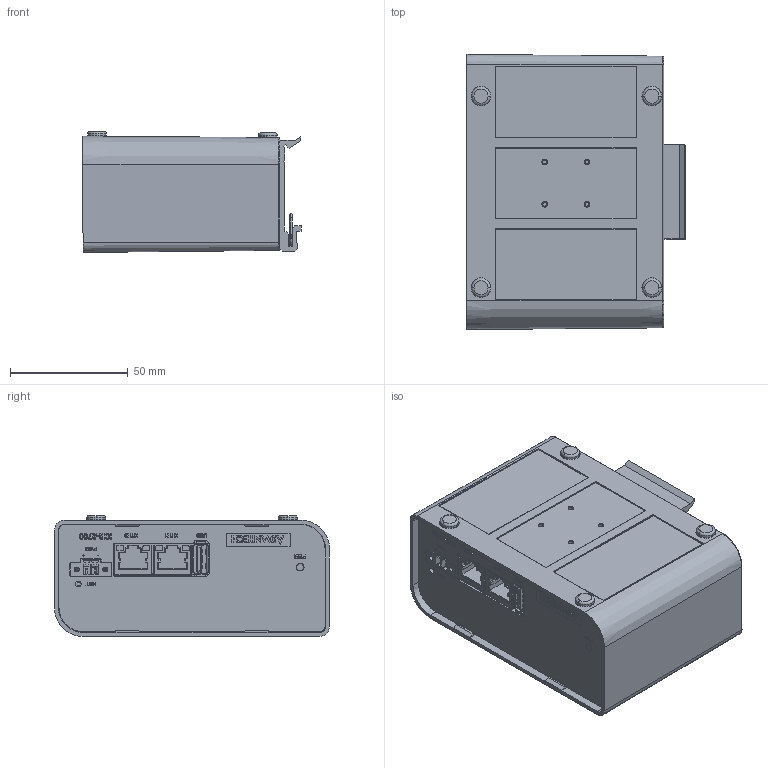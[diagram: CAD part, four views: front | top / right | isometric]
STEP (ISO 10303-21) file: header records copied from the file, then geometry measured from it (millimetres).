
FILE_DESCRIPTION (( 'STEP AP203' ), '1' );
FILE_NAME ('VMC-2021-24-1_Box ICR-2700 - plastic.STEP', '2021-10-20T09:28:12', ( '' ), ( '' ), 'SwSTEP 2.0', 'SolidWorks 2021', '' );
FILE_SCHEMA (( 'CONFIG_CONTROL_DESIGN' ));
Products named in the file (9): VMC-2021-24-1-01_ICR-2700 - front part; VMC-2016-55-1-01_CKD-SBD40 profil; VMC-2016-55-1-02_CKD-SBD40 kolik; B-ICR2701-ETH-1.a_3D-2021-04-28_part; VMC-2016-55-1_CKD-SBD40 v2; VMC-2021-24-1_Box ICR-2700 - plastic; VMC-2021-26-1-02_ICR-2700 LIBRATUM - Plastic box; VMC-2016-55-1-03_CKD-SBD40 pero; cross fh tapping 7976_din_Tapping screw DIN 7982-ST2.2x6.5-C-H-N
Assembly tree (11 placements, depth 3):
  VMC-2021-24-1_Box ICR-2700 - plastic
    VMC-2021-24-1-01_ICR-2700 - front part
    VMC-2021-26-1-02_ICR-2700 LIBRATUM - Plastic box
    B-ICR2701-ETH-1.a_3D-2021-04-28_part
    VMC-2016-55-1_CKD-SBD40 v2
      VMC-2016-55-1-01_CKD-SBD40 profil
      VMC-2016-55-1-02_CKD-SBD40 kolik
      VMC-2016-55-1-03_CKD-SBD40 pero
    cross fh tapping 7976_din_Tapping screw DIN 7982-ST2.2x6.5-C-H-N  x4
Bounding box: 92.87 x 116.96 x 51.44 mm (x, y, z)
Volume: 15098.7 mm3; surface area: 113604.2 mm2
Topology: 8 solids, 848 shells, 5193 faces, 17285 edges, 12855 vertices
Faces by surface type: plane 4083, cylinder 677, bspline 264, torus 98, cone 46, sphere 25
Entity records: 197428 total; most frequent: CARTESIAN_POINT 52907, DIRECTION 27816, ORIENTED_EDGE 25518, EDGE_CURVE 17075, LINE 14334, VECTOR 14334, VERTEX_POINT 12732, AXIS2_PLACEMENT_3D 6741
